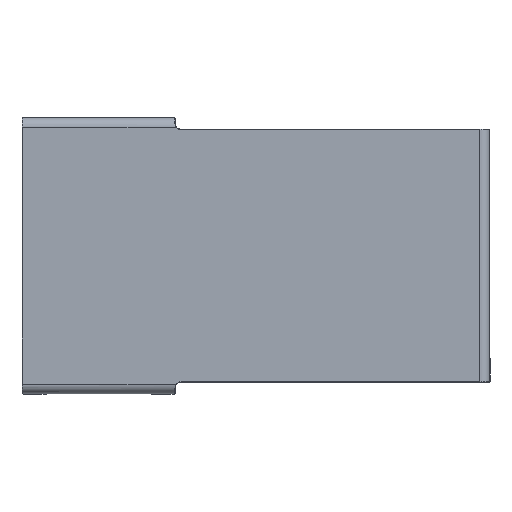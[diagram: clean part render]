
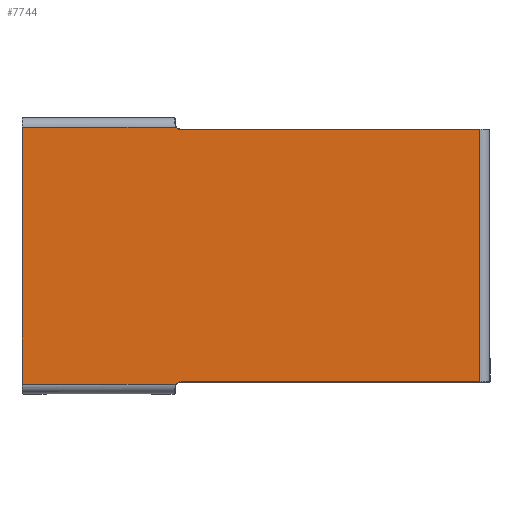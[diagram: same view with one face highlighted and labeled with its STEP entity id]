
A CAD part, top view. The second image highlights one B-rep face of the part: STEP entity #7744.
In plain terms, the highlighted planar face has unit normal (0, 0, 1).
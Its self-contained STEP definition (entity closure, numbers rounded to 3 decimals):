
#6020=CARTESIAN_POINT('',(-376.333,334.392,12.));
#6021=VERTEX_POINT('',#6020);
#6022=CARTESIAN_POINT('',(-364.355,329.,12.));
#6023=VERTEX_POINT('',#6022);
#6024=CARTESIAN_POINT('',(-364.355,345.,12.));
#6025=DIRECTION('',(0.0,0.0,1.0));
#6026=DIRECTION('',(-0.707,-0.707,0.0));
#6027=AXIS2_PLACEMENT_3D('',#6024,#6025,#6026);
#6028=CIRCLE('',#6027,16.);
#6029=EDGE_CURVE('',#6021,#6023,#6028,.T.);
#6065=CARTESIAN_POINT('',(415.641,329.,12.));
#6066=VERTEX_POINT('',#6065);
#6082=CARTESIAN_POINT('',(-364.355,329.,12.));
#6083=DIRECTION('',(1.0,0.0,0.0));
#6084=VECTOR('',#6083,779.996);
#6085=LINE('',#6082,#6084);
#6086=EDGE_CURVE('',#6023,#6066,#6085,.T.);
#6287=CARTESIAN_POINT('',(415.641,-329.,12.));
#6288=VERTEX_POINT('',#6287);
#6319=CARTESIAN_POINT('',(-364.355,-329.,12.));
#6320=VERTEX_POINT('',#6319);
#6336=CARTESIAN_POINT('',(415.641,-329.,12.));
#6337=DIRECTION('',(-1.0,0.0,0.0));
#6338=VECTOR('',#6337,779.996);
#6339=LINE('',#6336,#6338);
#6340=EDGE_CURVE('',#6288,#6320,#6339,.T.);
#6360=CARTESIAN_POINT('',(-376.333,-334.392,12.));
#6361=VERTEX_POINT('',#6360);
#6362=CARTESIAN_POINT('',(-364.355,-345.,12.));
#6363=DIRECTION('',(0.0,0.0,1.0));
#6364=DIRECTION('',(-0.707,0.707,0.0));
#6365=AXIS2_PLACEMENT_3D('',#6362,#6363,#6364);
#6366=CIRCLE('',#6365,16.);
#6367=EDGE_CURVE('',#6320,#6361,#6366,.T.);
#6614=CARTESIAN_POINT('',(-376.719,335.001,12.));
#6615=VERTEX_POINT('',#6614);
#6802=CARTESIAN_POINT('',(-376.719,335.001,12.));
#6803=CARTESIAN_POINT('',(-376.69,334.953,12.));
#6804=CARTESIAN_POINT('',(-376.661,334.906,12.));
#6805=CARTESIAN_POINT('',(-376.536,334.705,12.));
#6806=CARTESIAN_POINT('',(-376.449,334.569,12.));
#6807=CARTESIAN_POINT('',(-376.361,334.434,12.));
#6808=CARTESIAN_POINT('',(-376.347,334.413,12.));
#6809=CARTESIAN_POINT('',(-376.333,334.392,12.));
#6810=B_SPLINE_CURVE_WITH_KNOTS('',3,(#6802,#6803,#6804,#6805,#6806,#6807,#6808,#6809),.UNSPECIFIED.,.F.,.U.,(4,2,2,4),(-0.051,-0.039,0.0,0.008),.UNSPECIFIED.);
#6811=EDGE_CURVE('',#6615,#6021,#6810,.T.);
#6977=CARTESIAN_POINT('',(-778.355,335.001,12.));
#6978=VERTEX_POINT('',#6977);
#7004=CARTESIAN_POINT('',(-778.355,-335.001,12.));
#7005=VERTEX_POINT('',#7004);
#7012=CARTESIAN_POINT('',(-778.355,-335.001,12.));
#7013=DIRECTION('',(0.0,1.0,0.0));
#7014=VECTOR('',#7013,670.002);
#7015=LINE('',#7012,#7014);
#7016=EDGE_CURVE('',#7005,#6978,#7015,.T.);
#7446=CARTESIAN_POINT('',(-376.719,-335.001,12.));
#7447=VERTEX_POINT('',#7446);
#7621=CARTESIAN_POINT('',(-376.333,-334.392,12.));
#7622=CARTESIAN_POINT('',(-376.347,-334.413,12.));
#7623=CARTESIAN_POINT('',(-376.361,-334.434,12.));
#7624=CARTESIAN_POINT('',(-376.449,-334.57,12.));
#7625=CARTESIAN_POINT('',(-376.536,-334.705,12.0));
#7626=CARTESIAN_POINT('',(-376.661,-334.906,12.0));
#7627=CARTESIAN_POINT('',(-376.69,-334.953,12.));
#7628=CARTESIAN_POINT('',(-376.719,-335.001,12.));
#7629=B_SPLINE_CURVE_WITH_KNOTS('',3,(#7621,#7622,#7623,#7624,#7625,#7626,#7627,#7628),.UNSPECIFIED.,.F.,.U.,(4,2,2,4),(-1.554,-1.537,-1.449,-1.424),.UNSPECIFIED.);
#7630=EDGE_CURVE('',#6361,#7447,#7629,.T.);
#7689=CARTESIAN_POINT('',(-778.355,-335.001,12.));
#7690=DIRECTION('',(1.0,0.0,0.0));
#7691=VECTOR('',#7690,401.636);
#7692=LINE('',#7689,#7691);
#7693=EDGE_CURVE('',#7005,#7447,#7692,.T.);
#7713=CARTESIAN_POINT('',(415.641,-329.,12.));
#7714=DIRECTION('',(0.0,1.0,0.0));
#7715=VECTOR('',#7714,658.);
#7716=LINE('',#7713,#7715);
#7717=EDGE_CURVE('',#6288,#6066,#7716,.T.);
#7722=CARTESIAN_POINT('',(-144.524,0.,12.));
#7723=DIRECTION('',(0.0,0.0,1.0));
#7724=DIRECTION('',(1.0,0.0,0.0));
#7725=AXIS2_PLACEMENT_3D('',#7722,#7723,#7724);
#7726=PLANE('',#7725);
#7727=ORIENTED_EDGE('',*,*,#7630,.F.);
#7728=ORIENTED_EDGE('',*,*,#6367,.F.);
#7729=ORIENTED_EDGE('',*,*,#6340,.F.);
#7730=ORIENTED_EDGE('',*,*,#7717,.T.);
#7731=ORIENTED_EDGE('',*,*,#6086,.F.);
#7732=ORIENTED_EDGE('',*,*,#6029,.F.);
#7733=ORIENTED_EDGE('',*,*,#6811,.F.);
#7734=CARTESIAN_POINT('',(-376.719,335.001,12.));
#7735=DIRECTION('',(-1.0,0.0,0.0));
#7736=VECTOR('',#7735,401.636);
#7737=LINE('',#7734,#7736);
#7738=EDGE_CURVE('',#6615,#6978,#7737,.T.);
#7739=ORIENTED_EDGE('',*,*,#7738,.T.);
#7740=ORIENTED_EDGE('',*,*,#7016,.F.);
#7741=ORIENTED_EDGE('',*,*,#7693,.T.);
#7742=EDGE_LOOP('',(#7727,#7728,#7729,#7730,#7731,#7732,#7733,#7739,#7740,#7741));
#7743=FACE_OUTER_BOUND('',#7742,.T.);
#7744=ADVANCED_FACE('',(#7743),#7726,.T.);
